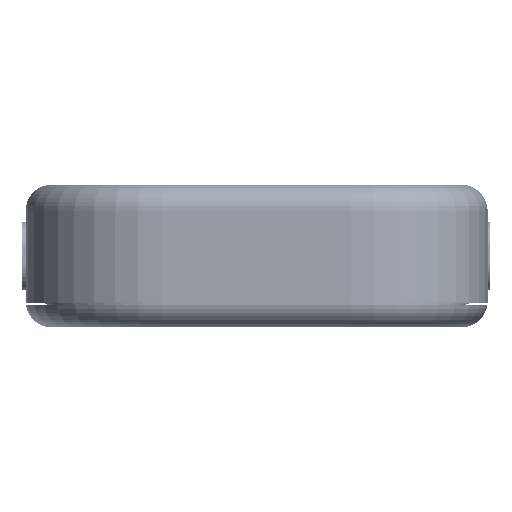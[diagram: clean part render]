
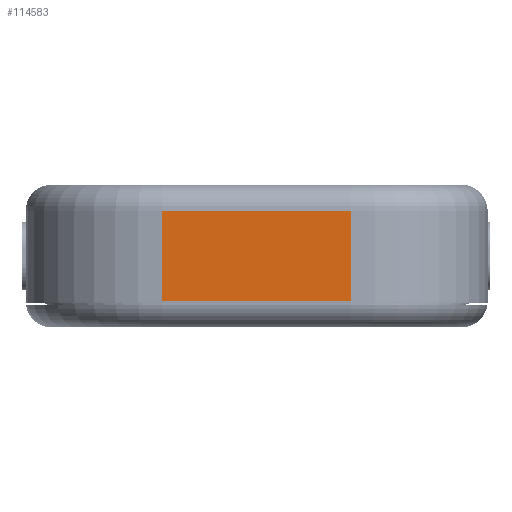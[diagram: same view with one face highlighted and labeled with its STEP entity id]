
A CAD part, front view. The second image highlights one B-rep face of the part: STEP entity #114583.
In plain terms, the highlighted planar face has unit normal (0, -1, 0).
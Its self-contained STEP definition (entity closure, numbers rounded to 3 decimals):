
#113743 = CYLINDRICAL_SURFACE('',#113744,26.);
#113744 = AXIS2_PLACEMENT_3D('',#113745,#113746,#113747);
#113745 = CARTESIAN_POINT('',(-18.,-42.,-13.6));
#113746 = DIRECTION('',(0.,0.,1.));
#113747 = DIRECTION('',(-1.,-0.,0.));
#113908 = VERTEX_POINT('',#113909);
#113909 = CARTESIAN_POINT('',(-18.,-68.,-8.6));
#113936 = EDGE_CURVE('',#113908,#113937,#113939,.T.);
#113937 = VERTEX_POINT('',#113938);
#113938 = CARTESIAN_POINT('',(-18.,-68.,8.6));
#113939 = SURFACE_CURVE('',#113940,(#113944,#113951),.PCURVE_S1.);
#113940 = LINE('',#113941,#113942);
#113941 = CARTESIAN_POINT('',(-18.,-68.,-13.6));
#113942 = VECTOR('',#113943,1.);
#113943 = DIRECTION('',(0.,0.,1.));
#113944 = PCURVE('',#113743,#113945);
#113945 = DEFINITIONAL_REPRESENTATION('',(#113946),#113950);
#113946 = LINE('',#113947,#113948);
#113947 = CARTESIAN_POINT('',(1.571,0.));
#113948 = VECTOR('',#113949,1.);
#113949 = DIRECTION('',(0.,1.));
#113950 = ( GEOMETRIC_REPRESENTATION_CONTEXT(2) 
PARAMETRIC_REPRESENTATION_CONTEXT() REPRESENTATION_CONTEXT('2D SPACE',''
  ) );
#113951 = PCURVE('',#113952,#113957);
#113952 = PLANE('',#113953);
#113953 = AXIS2_PLACEMENT_3D('',#113954,#113955,#113956);
#113954 = CARTESIAN_POINT('',(-44.,-68.,-13.6));
#113955 = DIRECTION('',(0.,1.,0.));
#113956 = DIRECTION('',(0.,-0.,1.));
#113957 = DEFINITIONAL_REPRESENTATION('',(#113958),#113962);
#113958 = LINE('',#113959,#113960);
#113959 = CARTESIAN_POINT('',(0.,26.));
#113960 = VECTOR('',#113961,1.);
#113961 = DIRECTION('',(1.,0.));
#113962 = ( GEOMETRIC_REPRESENTATION_CONTEXT(2) 
PARAMETRIC_REPRESENTATION_CONTEXT() REPRESENTATION_CONTEXT('2D SPACE',''
  ) );
#114487 = CYLINDRICAL_SURFACE('',#114488,5.);
#114488 = AXIS2_PLACEMENT_3D('',#114489,#114490,#114491);
#114489 = CARTESIAN_POINT('',(18.,-63.,-8.6));
#114490 = DIRECTION('',(-1.,-0.,-0.));
#114491 = DIRECTION('',(0.,-1.,0.));
#114573 = CYLINDRICAL_SURFACE('',#114574,5.);
#114574 = AXIS2_PLACEMENT_3D('',#114575,#114576,#114577);
#114575 = CARTESIAN_POINT('',(18.,-63.,8.6));
#114576 = DIRECTION('',(-1.,-0.,-0.));
#114577 = DIRECTION('',(0.,-1.,0.));
#114583 = ADVANCED_FACE('',(#114584),#113952,.F.);
#114584 = FACE_BOUND('',#114585,.F.);
#114585 = EDGE_LOOP('',(#114586,#114587,#114610,#114638));
#114586 = ORIENTED_EDGE('',*,*,#113936,.T.);
#114587 = ORIENTED_EDGE('',*,*,#114588,.F.);
#114588 = EDGE_CURVE('',#114589,#113937,#114591,.T.);
#114589 = VERTEX_POINT('',#114590);
#114590 = CARTESIAN_POINT('',(18.,-68.,8.6));
#114591 = SURFACE_CURVE('',#114592,(#114596,#114603),.PCURVE_S1.);
#114592 = LINE('',#114593,#114594);
#114593 = CARTESIAN_POINT('',(18.,-68.,8.6));
#114594 = VECTOR('',#114595,1.);
#114595 = DIRECTION('',(-1.,-0.,-0.));
#114596 = PCURVE('',#113952,#114597);
#114597 = DEFINITIONAL_REPRESENTATION('',(#114598),#114602);
#114598 = LINE('',#114599,#114600);
#114599 = CARTESIAN_POINT('',(22.2,62.));
#114600 = VECTOR('',#114601,1.);
#114601 = DIRECTION('',(0.,-1.));
#114602 = ( GEOMETRIC_REPRESENTATION_CONTEXT(2) 
PARAMETRIC_REPRESENTATION_CONTEXT() REPRESENTATION_CONTEXT('2D SPACE',''
  ) );
#114603 = PCURVE('',#114573,#114604);
#114604 = DEFINITIONAL_REPRESENTATION('',(#114605),#114609);
#114605 = LINE('',#114606,#114607);
#114606 = CARTESIAN_POINT('',(0.,0.));
#114607 = VECTOR('',#114608,1.);
#114608 = DIRECTION('',(0.,1.));
#114609 = ( GEOMETRIC_REPRESENTATION_CONTEXT(2) 
PARAMETRIC_REPRESENTATION_CONTEXT() REPRESENTATION_CONTEXT('2D SPACE',''
  ) );
#114610 = ORIENTED_EDGE('',*,*,#114611,.F.);
#114611 = EDGE_CURVE('',#114612,#114589,#114614,.T.);
#114612 = VERTEX_POINT('',#114613);
#114613 = CARTESIAN_POINT('',(18.,-68.,-8.6));
#114614 = SURFACE_CURVE('',#114615,(#114619,#114626),.PCURVE_S1.);
#114615 = LINE('',#114616,#114617);
#114616 = CARTESIAN_POINT('',(18.,-68.,-13.6));
#114617 = VECTOR('',#114618,1.);
#114618 = DIRECTION('',(0.,0.,1.));
#114619 = PCURVE('',#113952,#114620);
#114620 = DEFINITIONAL_REPRESENTATION('',(#114621),#114625);
#114621 = LINE('',#114622,#114623);
#114622 = CARTESIAN_POINT('',(0.,62.));
#114623 = VECTOR('',#114624,1.);
#114624 = DIRECTION('',(1.,0.));
#114625 = ( GEOMETRIC_REPRESENTATION_CONTEXT(2) 
PARAMETRIC_REPRESENTATION_CONTEXT() REPRESENTATION_CONTEXT('2D SPACE',''
  ) );
#114626 = PCURVE('',#114627,#114632);
#114627 = CYLINDRICAL_SURFACE('',#114628,26.);
#114628 = AXIS2_PLACEMENT_3D('',#114629,#114630,#114631);
#114629 = CARTESIAN_POINT('',(18.,-42.,-13.6));
#114630 = DIRECTION('',(0.,0.,1.));
#114631 = DIRECTION('',(1.,0.,-0.));
#114632 = DEFINITIONAL_REPRESENTATION('',(#114633),#114637);
#114633 = LINE('',#114634,#114635);
#114634 = CARTESIAN_POINT('',(4.712,0.));
#114635 = VECTOR('',#114636,1.);
#114636 = DIRECTION('',(-0.,1.));
#114637 = ( GEOMETRIC_REPRESENTATION_CONTEXT(2) 
PARAMETRIC_REPRESENTATION_CONTEXT() REPRESENTATION_CONTEXT('2D SPACE',''
  ) );
#114638 = ORIENTED_EDGE('',*,*,#114639,.T.);
#114639 = EDGE_CURVE('',#114612,#113908,#114640,.T.);
#114640 = SURFACE_CURVE('',#114641,(#114645,#114652),.PCURVE_S1.);
#114641 = LINE('',#114642,#114643);
#114642 = CARTESIAN_POINT('',(18.,-68.,-8.6));
#114643 = VECTOR('',#114644,1.);
#114644 = DIRECTION('',(-1.,-0.,-0.));
#114645 = PCURVE('',#113952,#114646);
#114646 = DEFINITIONAL_REPRESENTATION('',(#114647),#114651);
#114647 = LINE('',#114648,#114649);
#114648 = CARTESIAN_POINT('',(5.,62.));
#114649 = VECTOR('',#114650,1.);
#114650 = DIRECTION('',(0.,-1.));
#114651 = ( GEOMETRIC_REPRESENTATION_CONTEXT(2) 
PARAMETRIC_REPRESENTATION_CONTEXT() REPRESENTATION_CONTEXT('2D SPACE',''
  ) );
#114652 = PCURVE('',#114487,#114653);
#114653 = DEFINITIONAL_REPRESENTATION('',(#114654),#114658);
#114654 = LINE('',#114655,#114656);
#114655 = CARTESIAN_POINT('',(6.283,0.));
#114656 = VECTOR('',#114657,1.);
#114657 = DIRECTION('',(-0.,1.));
#114658 = ( GEOMETRIC_REPRESENTATION_CONTEXT(2) 
PARAMETRIC_REPRESENTATION_CONTEXT() REPRESENTATION_CONTEXT('2D SPACE',''
  ) );
